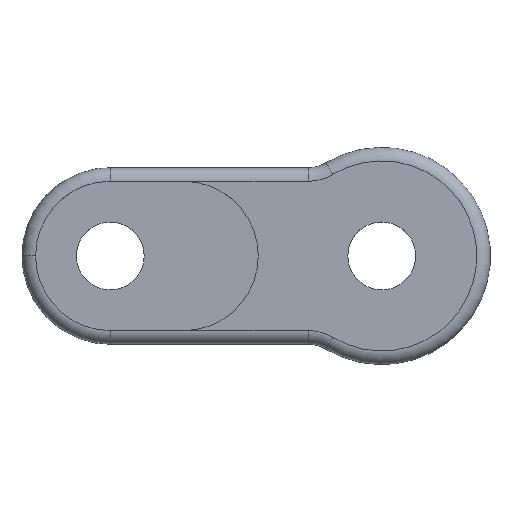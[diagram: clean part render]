
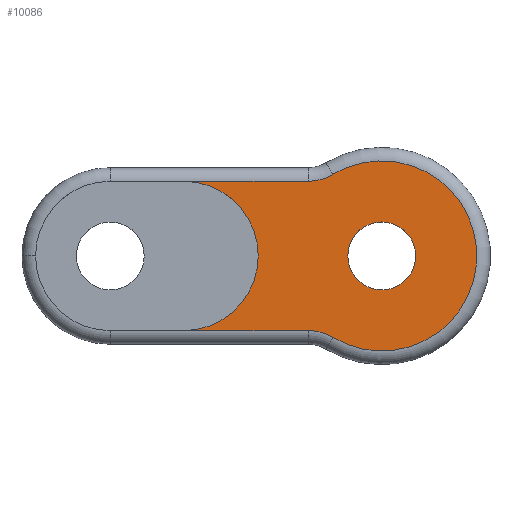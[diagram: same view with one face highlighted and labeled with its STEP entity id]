
A CAD part, top view. The second image highlights one B-rep face of the part: STEP entity #10086.
In plain terms, the highlighted planar face has unit normal (0, 0, 1).
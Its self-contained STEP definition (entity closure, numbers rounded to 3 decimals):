
#213 = CIRCLE ( 'NONE', #4076, 70. ) ;
#311 = DIRECTION ( 'NONE',  ( 0., 0., 1. ) ) ;
#558 = DIRECTION ( 'NONE',  ( 0., 0., -1. ) ) ;
#566 = VERTEX_POINT ( 'NONE', #16917 ) ;
#594 = VERTEX_POINT ( 'NONE', #9744 ) ;
#715 = CARTESIAN_POINT ( 'NONE',  ( 54., 0., 59.5 ) ) ;
#1077 = VERTEX_POINT ( 'NONE', #6698 ) ;
#2073 = DIRECTION ( 'NONE',  ( 1., 0., 0. ) ) ;
#2230 = FACE_OUTER_BOUND ( 'NONE', #21636, .T. ) ;
#2605 = DIRECTION ( 'NONE',  ( 0., 0., -1. ) ) ;
#2925 = EDGE_CURVE ( 'NONE', #566, #594, #18482, .T. ) ;
#3002 = ORIENTED_EDGE ( 'NONE', *, *, #6931, .T. ) ;
#3115 = DIRECTION ( 'NONE',  ( 0., 0., 1. ) ) ;
#3636 = EDGE_LOOP ( 'NONE', ( #18120, #10340 ) ) ;
#3875 = LINE ( 'NONE', #10816, #21755 ) ;
#4076 = AXIS2_PLACEMENT_3D ( 'NONE', #16634, #12829, #11137 ) ;
#4184 = AXIS2_PLACEMENT_3D ( 'NONE', #18058, #11658, #13233 ) ;
#5228 = CIRCLE ( 'NONE', #7023, 25. ) ;
#5673 = DIRECTION ( 'NONE',  ( 1., 0., 0. ) ) ;
#6074 = DIRECTION ( 'NONE',  ( -1., 0., 0. ) ) ;
#6285 = CARTESIAN_POINT ( 'NONE',  ( 163.944, -60., 59.5 ) ) ;
#6352 = VECTOR ( 'NONE', #17826, 1000. ) ;
#6698 = CARTESIAN_POINT ( 'NONE',  ( 225., 0., 59.5 ) ) ;
#6904 = CARTESIAN_POINT ( 'NONE',  ( 200., 0., 59.5 ) ) ;
#6931 = EDGE_CURVE ( 'NONE', #20751, #16903, #20644, .T. ) ;
#7023 = AXIS2_PLACEMENT_3D ( 'NONE', #7114, #3115, #2073 ) ;
#7112 = EDGE_CURVE ( 'NONE', #20515, #1077, #8836, .T. ) ;
#7114 = CARTESIAN_POINT ( 'NONE',  ( 200., 0., 59.5 ) ) ;
#7495 = ORIENTED_EDGE ( 'NONE', *, *, #15854, .T. ) ;
#7814 = ORIENTED_EDGE ( 'NONE', *, *, #21528, .T. ) ;
#8388 = AXIS2_PLACEMENT_3D ( 'NONE', #14211, #558, #14320 ) ;
#8398 = CARTESIAN_POINT ( 'NONE',  ( 54., 0., 59.5 ) ) ;
#8572 = ORIENTED_EDGE ( 'NONE', *, *, #9291, .T. ) ;
#8794 = EDGE_CURVE ( 'NONE', #13937, #12523, #22062, .T. ) ;
#8836 = CIRCLE ( 'NONE', #12059, 25. ) ;
#9177 = CARTESIAN_POINT ( 'NONE',  ( 54., -55., 59.5 ) ) ;
#9199 = LINE ( 'NONE', #12681, #6352 ) ;
#9291 = EDGE_CURVE ( 'NONE', #12523, #566, #9199, .T. ) ;
#9329 = ORIENTED_EDGE ( 'NONE', *, *, #2925, .T. ) ;
#9744 = CARTESIAN_POINT ( 'NONE',  ( 109., 0., 59.5 ) ) ;
#10086 = ADVANCED_FACE ( 'NONE', ( #14104, #2230 ), #19471, .F. ) ;
#10340 = ORIENTED_EDGE ( 'NONE', *, *, #13350, .F. ) ;
#10723 = CARTESIAN_POINT ( 'NONE',  ( 175., 0., 59.5 ) ) ;
#10816 = CARTESIAN_POINT ( 'NONE',  ( 145.917, -55., 59.5 ) ) ;
#11137 = DIRECTION ( 'NONE',  ( -1., 0., 0. ) ) ;
#11658 = DIRECTION ( 'NONE',  ( 0., 0., -1. ) ) ;
#12059 = AXIS2_PLACEMENT_3D ( 'NONE', #6904, #311, #13634 ) ;
#12151 = CARTESIAN_POINT ( 'NONE',  ( 145.917, 55., 59.5 ) ) ;
#12423 = CARTESIAN_POINT ( 'NONE',  ( 145.917, 90., 59.5 ) ) ;
#12510 = CARTESIAN_POINT ( 'NONE',  ( 145.917, -55., 59.5 ) ) ;
#12523 = VERTEX_POINT ( 'NONE', #12151 ) ;
#12681 = CARTESIAN_POINT ( 'NONE',  ( 145.917, 55., 59.5 ) ) ;
#12829 = DIRECTION ( 'NONE',  ( 0., 0., 1. ) ) ;
#13233 = DIRECTION ( 'NONE',  ( -1., 0., 0. ) ) ;
#13350 = EDGE_CURVE ( 'NONE', #1077, #20515, #5228, .T. ) ;
#13634 = DIRECTION ( 'NONE',  ( 1., 0., 0. ) ) ;
#13937 = VERTEX_POINT ( 'NONE', #21453 ) ;
#14104 = FACE_BOUND ( 'NONE', #3636, .T. ) ;
#14211 = CARTESIAN_POINT ( 'NONE',  ( 145.917, -90., 59.5 ) ) ;
#14320 = DIRECTION ( 'NONE',  ( -1., 0., 0. ) ) ;
#15079 = CIRCLE ( 'NONE', #16875, 55. ) ;
#15854 = EDGE_CURVE ( 'NONE', #16903, #13937, #213, .T. ) ;
#16634 = CARTESIAN_POINT ( 'NONE',  ( 200., 0., 59.5 ) ) ;
#16875 = AXIS2_PLACEMENT_3D ( 'NONE', #8398, #21627, #16924 ) ;
#16889 = EDGE_CURVE ( 'NONE', #594, #17721, #15079, .T. ) ;
#16903 = VERTEX_POINT ( 'NONE', #6285 ) ;
#16917 = CARTESIAN_POINT ( 'NONE',  ( 54., 55., 59.5 ) ) ;
#16924 = DIRECTION ( 'NONE',  ( -1., 0., 0. ) ) ;
#16988 = ORIENTED_EDGE ( 'NONE', *, *, #8794, .T. ) ;
#17567 = DIRECTION ( 'NONE',  ( 0., 0., -1. ) ) ;
#17675 = DIRECTION ( 'NONE',  ( -1., 0., 0. ) ) ;
#17721 = VERTEX_POINT ( 'NONE', #9177 ) ;
#17747 = AXIS2_PLACEMENT_3D ( 'NONE', #715, #2605, #6074 ) ;
#17826 = DIRECTION ( 'NONE',  ( -1., 0., 0. ) ) ;
#18058 = CARTESIAN_POINT ( 'NONE',  ( 145.917, -90., 59.5 ) ) ;
#18120 = ORIENTED_EDGE ( 'NONE', *, *, #7112, .F. ) ;
#18482 = CIRCLE ( 'NONE', #17747, 55. ) ;
#19471 = PLANE ( 'NONE',  #8388 ) ;
#20515 = VERTEX_POINT ( 'NONE', #10723 ) ;
#20644 = CIRCLE ( 'NONE', #4184, 35. ) ;
#20751 = VERTEX_POINT ( 'NONE', #12510 ) ;
#20991 = AXIS2_PLACEMENT_3D ( 'NONE', #12423, #17567, #17675 ) ;
#21453 = CARTESIAN_POINT ( 'NONE',  ( 163.944, 60., 59.5 ) ) ;
#21528 = EDGE_CURVE ( 'NONE', #17721, #20751, #3875, .T. ) ;
#21627 = DIRECTION ( 'NONE',  ( 0., 0., -1. ) ) ;
#21636 = EDGE_LOOP ( 'NONE', ( #9329, #22113, #7814, #3002, #7495, #16988, #8572 ) ) ;
#21755 = VECTOR ( 'NONE', #5673, 1000. ) ;
#22062 = CIRCLE ( 'NONE', #20991, 35. ) ;
#22113 = ORIENTED_EDGE ( 'NONE', *, *, #16889, .T. ) ;
